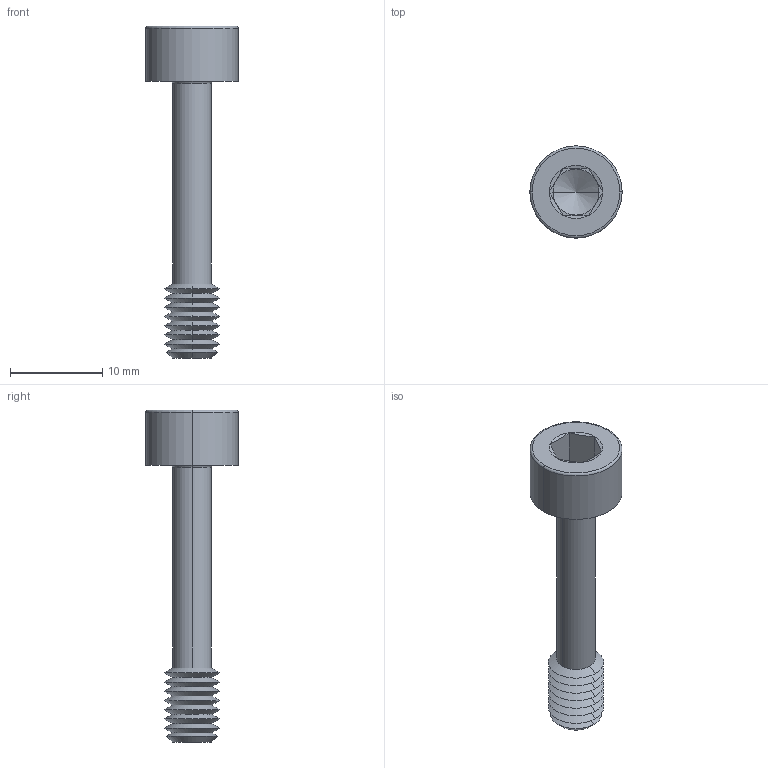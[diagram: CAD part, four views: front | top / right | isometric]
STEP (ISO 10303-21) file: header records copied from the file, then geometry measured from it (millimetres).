
FILE_DESCRIPTION (( 'STEP AP203' ), '1' );
FILE_NAME ('P0154.060-030-BL.step', '2024-06-17T11:29:17', ( '' ), ( '' ), 'SwSTEP 2.0', 'SolidWorks 2019', '' );
FILE_SCHEMA (( 'CONFIG_CONTROL_DESIGN' ));
Length unit declared in the file: millimetre
Products named in the file (1): P0154.060-030-BL
Bounding box: 10 x 10 x 36 mm (x, y, z)
Volume: 823.2 mm3; surface area: 971.4 mm2
Topology: 1 solids, 1 shells, 63 faces, 128 edges, 67 vertices
Faces by surface type: cone 40, plane 15, torus 4, cylinder 4
Entity records: 1687 total; most frequent: DIRECTION 312, CARTESIAN_POINT 283, ORIENTED_EDGE 252, AXIS2_PLACEMENT_3D 128, EDGE_CURVE 126, VERTEX_POINT 67, EDGE_LOOP 65, CIRCLE 64
